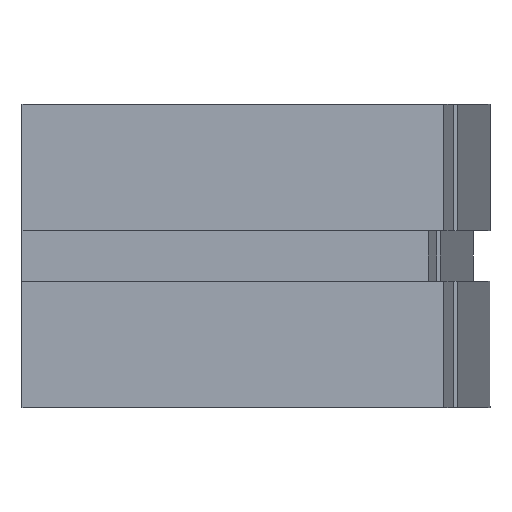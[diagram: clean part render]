
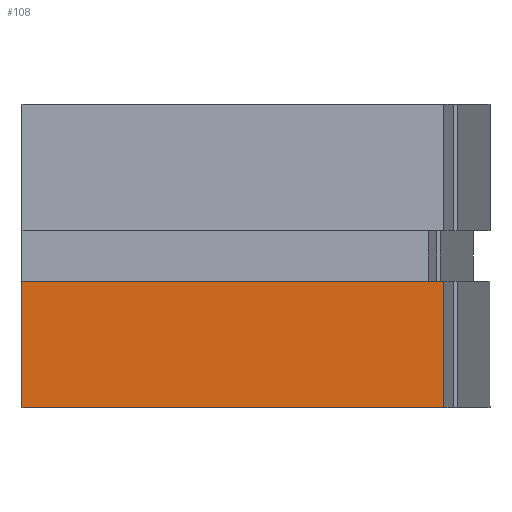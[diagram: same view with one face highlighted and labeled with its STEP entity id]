
A CAD part, left-side view. The second image highlights one B-rep face of the part: STEP entity #108.
In plain terms, the highlighted planar face has unit normal (-1, 0, 0).
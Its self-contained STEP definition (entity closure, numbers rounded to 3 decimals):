
#108 = ADVANCED_FACE( '', ( #194 ), #195, .T. );
#194 = FACE_OUTER_BOUND( '', #300, .T. );
#195 = PLANE( '', #301 );
#300 = EDGE_LOOP( '', ( #615, #616, #617, #618 ) );
#301 = AXIS2_PLACEMENT_3D( '', #619, #620, #621 );
#615 = ORIENTED_EDGE( '', *, *, #889, .T. );
#616 = ORIENTED_EDGE( '', *, *, #898, .T. );
#617 = ORIENTED_EDGE( '', *, *, #899, .T. );
#618 = ORIENTED_EDGE( '', *, *, #895, .F. );
#619 = CARTESIAN_POINT( '', ( -9., 0., 9. ) );
#620 = DIRECTION( '', ( -1., 0., 0. ) );
#621 = DIRECTION( '', ( 0., 1., 0. ) );
#889 = EDGE_CURVE( '', #1113, #1111, #1114, .T. );
#895 = EDGE_CURVE( '', #1113, #1122, #1123, .T. );
#898 = EDGE_CURVE( '', #1111, #1126, #1127, .T. );
#899 = EDGE_CURVE( '', #1126, #1122, #1128, .T. );
#1111 = VERTEX_POINT( '', #1430 );
#1113 = VERTEX_POINT( '', #1433 );
#1114 = LINE( '', #1434, #1435 );
#1122 = VERTEX_POINT( '', #1447 );
#1123 = LINE( '', #1448, #1449 );
#1126 = VERTEX_POINT( '', #1453 );
#1127 = LINE( '', #1454, #1455 );
#1128 = LINE( '', #1456, #1457 );
#1430 = CARTESIAN_POINT( '', ( -9., 0., -1.5 ) );
#1433 = CARTESIAN_POINT( '', ( -9., -25., -1.5 ) );
#1434 = CARTESIAN_POINT( '', ( -9., 0., -1.5 ) );
#1435 = VECTOR( '', #1679, 1. );
#1447 = CARTESIAN_POINT( '', ( -9., -25., -9. ) );
#1448 = CARTESIAN_POINT( '', ( -9., -25., 9. ) );
#1449 = VECTOR( '', #1687, 1. );
#1453 = CARTESIAN_POINT( '', ( -9., 0., -9. ) );
#1454 = CARTESIAN_POINT( '', ( -9., 0., 9. ) );
#1455 = VECTOR( '', #1692, 1. );
#1456 = CARTESIAN_POINT( '', ( -9., 0., -9. ) );
#1457 = VECTOR( '', #1693, 1. );
#1679 = DIRECTION( '', ( 0., 1., 0. ) );
#1687 = DIRECTION( '', ( 0., 0., -1. ) );
#1692 = DIRECTION( '', ( 0., 0., -1. ) );
#1693 = DIRECTION( '', ( 0., -1., 0. ) );
